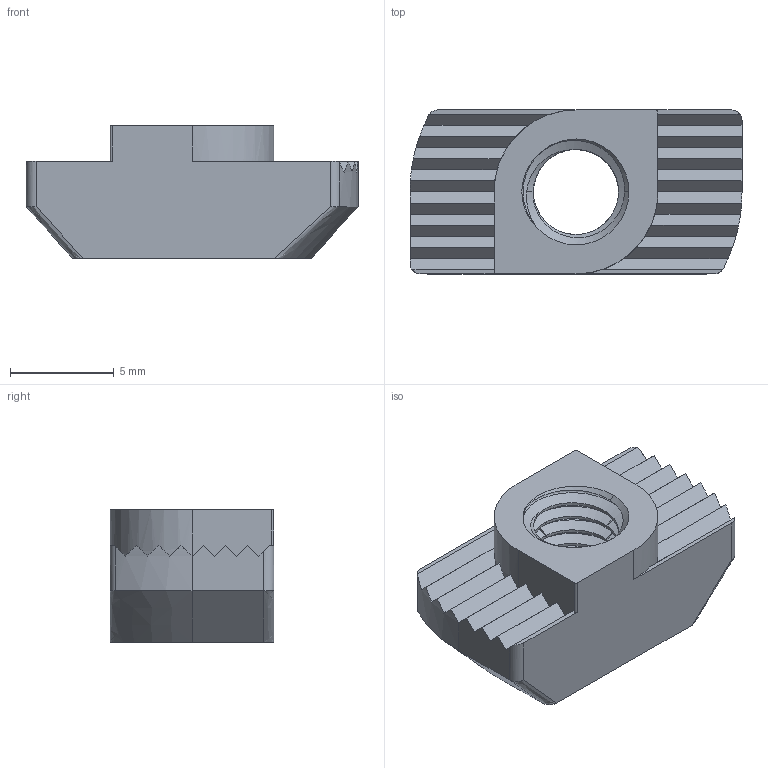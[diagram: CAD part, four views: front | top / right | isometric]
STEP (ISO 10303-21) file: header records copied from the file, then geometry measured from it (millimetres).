
FILE_DESCRIPTION(('FreeCAD Model'),'2;1');
FILE_NAME('Open CASCADE Shape Model','2021-05-04T11:29:41',('Author'),( ''),'Open CASCADE STEP processor 7.5','FreeCAD','Unknown');
FILE_SCHEMA(('AUTOMOTIVE_DESIGN { 1 0 10303 214 1 1 1 1 }'));
Length unit declared in the file: millimetre
Products named in the file (1): 1
Bounding box: 16 x 7.9 x 6.4 mm (x, y, z)
Volume: 501.5 mm3; surface area: 639.6 mm2
Topology: 1 solids, 1 shells, 178 faces, 519 edges, 344 vertices
Faces by surface type: plane 129, cylinder 38, bspline 8, cone 3
Entity records: 22552 total; most frequent: CARTESIAN_POINT 13583, DIRECTION 1233, ORIENTED_EDGE 1038, PCURVE 1038, DEFINITIONAL_REPRESENTATION 1038, LINE 753, VECTOR 753, B_SPLINE_CURVE_WITH_KNOTS 647
